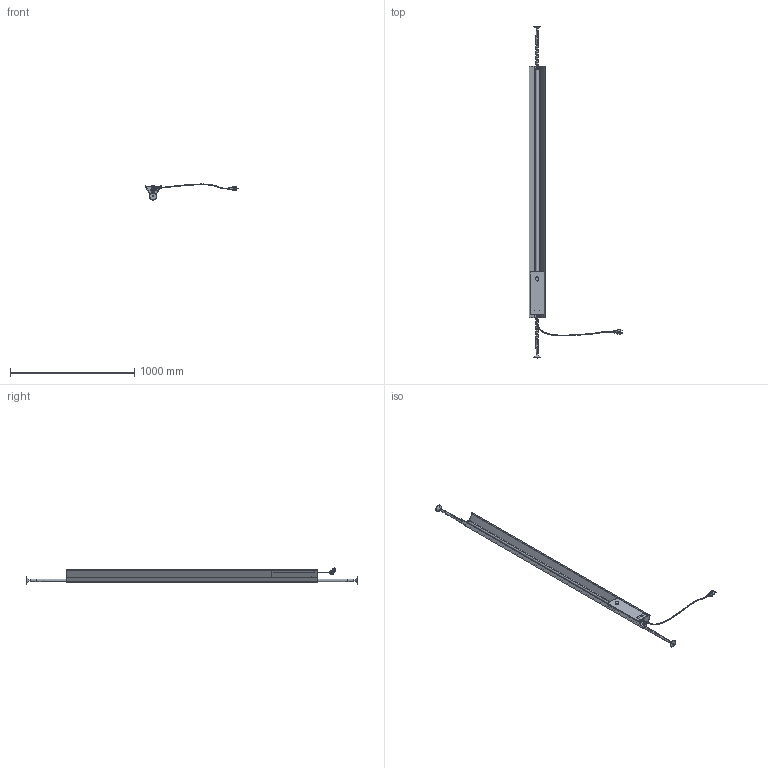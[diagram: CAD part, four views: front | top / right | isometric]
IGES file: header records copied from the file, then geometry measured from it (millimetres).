
Start section: SolidWorks IGES file using analytic representation for surfaces
Global section: file name: G:\Il mio Drive\00 File Sito\LT8\LT8 h.1 2030.IGS; native system: SolidWorks 2024; preprocessor: SolidWorks 2024; author: Tecnico; date: 240920.123834; units: millimetre
Bounding box: 754.87 x 2676 x 129.67 mm (x, y, z)
Surface area: 1611542.6 mm2 (no closed solid volume)
Topology: 0 solids, 0 shells, 1317 faces, 14876 edges, 14742 vertices
Faces by surface type: bspline 688, revolution 629
